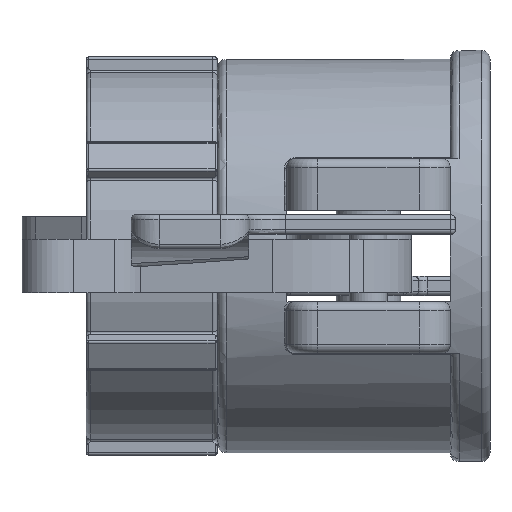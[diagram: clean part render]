
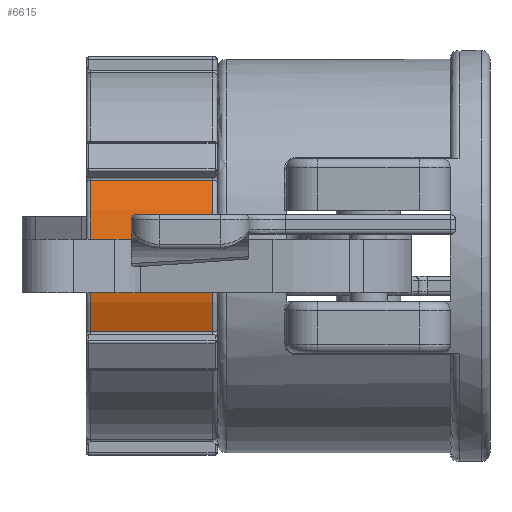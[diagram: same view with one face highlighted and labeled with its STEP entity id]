
A CAD part, front view. The second image highlights one B-rep face of the part: STEP entity #6615.
In plain terms, the highlighted cylindrical face has radius 31.75 mm (diameter 63.5 mm), a partial arc.
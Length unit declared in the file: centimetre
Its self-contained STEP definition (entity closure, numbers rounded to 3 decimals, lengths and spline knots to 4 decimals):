
#409=VECTOR('',#8121,1.);
#410=VECTOR('',#8124,1.);
#759=LINE('',#21392,#409);
#760=LINE('',#21395,#410);
#1720=CYLINDRICAL_SURFACE('',#7008,3.175);
#2048=VERTEX_POINT('',#21199);
#2051=VERTEX_POINT('',#21204);
#2062=VERTEX_POINT('',#21393);
#2063=VERTEX_POINT('',#21396);
#2527=CIRCLE('',#7105,3.175);
#2533=CIRCLE('',#7115,3.175);
#3080=EDGE_CURVE('',#2051,#2048,#2527,.T.);
#3094=EDGE_CURVE('',#2048,#2062,#759,.T.);
#3096=EDGE_CURVE('',#2063,#2051,#760,.T.);
#3097=EDGE_CURVE('',#2062,#2063,#2533,.T.);
#4176=ORIENTED_EDGE('',*,*,#3080,.F.);
#4177=ORIENTED_EDGE('',*,*,#3096,.F.);
#4178=ORIENTED_EDGE('',*,*,#3097,.F.);
#4179=ORIENTED_EDGE('',*,*,#3094,.F.);
#5736=EDGE_LOOP('',(#4176,#4177,#4178,#4179));
#6183=FACE_BOUND('',#5736,.T.);
#6615=ADVANCED_FACE('',(#6183),#1720,.T.);
#7008=AXIS2_PLACEMENT_3D('',#20161,#7896,#7897);
#7105=AXIS2_PLACEMENT_3D('',#21205,#8102,#8103);
#7115=AXIS2_PLACEMENT_3D('',#21397,#8125,#8126);
#7896=DIRECTION('',(-1.,0.,0.));
#7897=DIRECTION('',(0.,0.,3.175));
#8102=DIRECTION('',(-1.,0.,0.));
#8103=DIRECTION('',(0.,-3.175,0.));
#8121=DIRECTION('',(1.,0.,0.));
#8124=DIRECTION('',(-1.,0.,0.));
#8125=DIRECTION('',(1.,0.,0.));
#8126=DIRECTION('',(0.,-3.175,0.));
#20161=CARTESIAN_POINT('',(-4.0132,0.,0.));
#21199=CARTESIAN_POINT('',(-6.1976,-2.8956,1.3023));
#21204=CARTESIAN_POINT('',(-6.1976,-2.8956,-1.3023));
#21205=CARTESIAN_POINT('',(-6.1976,0.,0.));
#21392=CARTESIAN_POINT('',(-4.0132,-2.8956,1.3023));
#21393=CARTESIAN_POINT('',(-4.0894,-2.8956,1.3023));
#21395=CARTESIAN_POINT('',(-4.0132,-2.8956,-1.3023));
#21396=CARTESIAN_POINT('',(-4.0894,-2.8956,-1.3023));
#21397=CARTESIAN_POINT('',(-4.0894,0.,0.));
